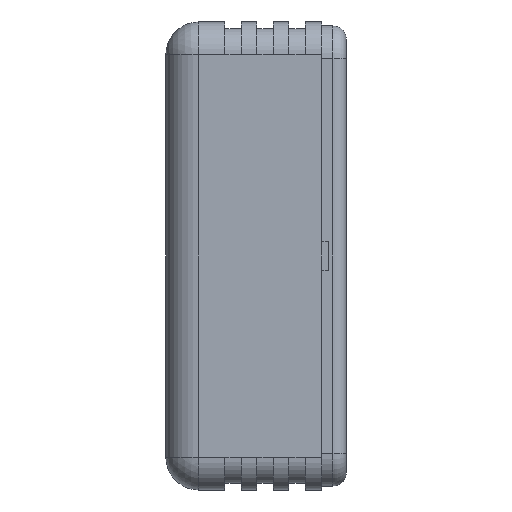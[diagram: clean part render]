
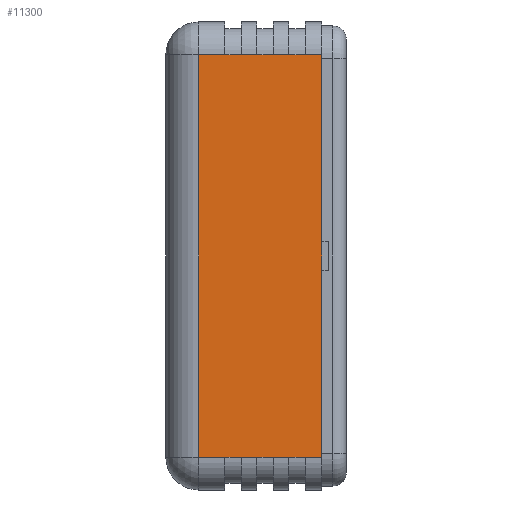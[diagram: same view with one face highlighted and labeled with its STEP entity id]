
A CAD part, left-side view. The second image highlights one B-rep face of the part: STEP entity #11300.
In plain terms, the highlighted planar face has unit normal (-1, 0, 0).
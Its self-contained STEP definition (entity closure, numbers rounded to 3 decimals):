
#18 = VERTEX_POINT ( 'NONE', #9978 ) ;
#83 = CARTESIAN_POINT ( 'NONE',  ( -50.45, 23.65, 30.5 ) ) ;
#113 = DIRECTION ( 'NONE',  ( 0., 0., 1. ) ) ;
#139 = VECTOR ( 'NONE', #6053, 1000. ) ;
#287 = LINE ( 'NONE', #4310, #9631 ) ;
#379 = EDGE_CURVE ( 'NONE', #11097, #8550, #6216, .T. ) ;
#414 = DIRECTION ( 'NONE',  ( 0., 1., 0. ) ) ;
#446 = VERTEX_POINT ( 'NONE', #1068 ) ;
#646 = CARTESIAN_POINT ( 'NONE',  ( -50.45, 23.65, -30.5 ) ) ;
#707 = VERTEX_POINT ( 'NONE', #6973 ) ;
#954 = EDGE_CURVE ( 'NONE', #11097, #1762, #8951, .T. ) ;
#986 = LINE ( 'NONE', #646, #3116 ) ;
#1018 = CARTESIAN_POINT ( 'NONE',  ( -50.45, 23.65, 30.5 ) ) ;
#1068 = CARTESIAN_POINT ( 'NONE',  ( -50.45, 5., -30.5 ) ) ;
#1094 = VECTOR ( 'NONE', #4354, 1000. ) ;
#1097 = ORIENTED_EDGE ( 'NONE', *, *, #6325, .F. ) ;
#1114 = CARTESIAN_POINT ( 'NONE',  ( -50.45, 23.65, -30.5 ) ) ;
#1179 = EDGE_CURVE ( 'NONE', #18, #8550, #2177, .T. ) ;
#1201 = CARTESIAN_POINT ( 'NONE',  ( -50.45, 21.15, 30.5 ) ) ;
#1205 = VECTOR ( 'NONE', #10738, 1000. ) ;
#1337 = CARTESIAN_POINT ( 'NONE',  ( -50.45, 8.95, 30.5 ) ) ;
#1354 = ORIENTED_EDGE ( 'NONE', *, *, #8096, .F. ) ;
#1356 = VERTEX_POINT ( 'NONE', #5769 ) ;
#1412 = CARTESIAN_POINT ( 'NONE',  ( -50.45, 16.3, 30.5 ) ) ;
#1465 = VECTOR ( 'NONE', #6773, 1000. ) ;
#1527 = PLANE ( 'NONE',  #8997 ) ;
#1697 = CARTESIAN_POINT ( 'NONE',  ( -50.45, 13.8, -30.5 ) ) ;
#1762 = VERTEX_POINT ( 'NONE', #7014 ) ;
#1820 = CARTESIAN_POINT ( 'NONE',  ( -50.45, 23.65, 30.5 ) ) ;
#1869 = DIRECTION ( 'NONE',  ( 0., -1., 0. ) ) ;
#1959 = DIRECTION ( 'NONE',  ( 0., 1., 0. ) ) ;
#2177 = LINE ( 'NONE', #5173, #9094 ) ;
#2414 = VECTOR ( 'NONE', #2472, 1000. ) ;
#2420 = DIRECTION ( 'NONE',  ( 0., -1., 0. ) ) ;
#2430 = DIRECTION ( 'NONE',  ( 0., 0., -1. ) ) ;
#2472 = DIRECTION ( 'NONE',  ( 0., -1., 0. ) ) ;
#2532 = LINE ( 'NONE', #11502, #139 ) ;
#2844 = CARTESIAN_POINT ( 'NONE',  ( -50.45, 5., 30.5 ) ) ;
#2933 = DIRECTION ( 'NONE',  ( 0., 0., 1. ) ) ;
#3008 = CARTESIAN_POINT ( 'NONE',  ( -50.45, 18.65, -30.5 ) ) ;
#3040 = VECTOR ( 'NONE', #113, 1000. ) ;
#3096 = EDGE_CURVE ( 'NONE', #10094, #5263, #287, .T. ) ;
#3106 = EDGE_CURVE ( 'NONE', #1356, #10306, #4842, .T. ) ;
#3116 = VECTOR ( 'NONE', #1869, 1000. ) ;
#3127 = VERTEX_POINT ( 'NONE', #7643 ) ;
#3316 = LINE ( 'NONE', #2844, #3040 ) ;
#3426 = ORIENTED_EDGE ( 'NONE', *, *, #3106, .F. ) ;
#3669 = LINE ( 'NONE', #1114, #10319 ) ;
#3781 = EDGE_CURVE ( 'NONE', #446, #10306, #3316, .T. ) ;
#3897 = VERTEX_POINT ( 'NONE', #1201 ) ;
#3991 = ORIENTED_EDGE ( 'NONE', *, *, #9452, .F. ) ;
#4083 = VECTOR ( 'NONE', #8203, 1000. ) ;
#4310 = CARTESIAN_POINT ( 'NONE',  ( -50.45, 23.65, -30.5 ) ) ;
#4354 = DIRECTION ( 'NONE',  ( 0., -1., 0. ) ) ;
#4485 = ORIENTED_EDGE ( 'NONE', *, *, #1179, .F. ) ;
#4624 = ORIENTED_EDGE ( 'NONE', *, *, #5553, .T. ) ;
#4842 = LINE ( 'NONE', #1018, #2414 ) ;
#4871 = CARTESIAN_POINT ( 'NONE',  ( -50.45, 13.8, -30.5 ) ) ;
#4899 = FACE_OUTER_BOUND ( 'NONE', #5888, .T. ) ;
#5087 = ORIENTED_EDGE ( 'NONE', *, *, #379, .T. ) ;
#5125 = CARTESIAN_POINT ( 'NONE',  ( -50.45, 23.65, -30.5 ) ) ;
#5173 = CARTESIAN_POINT ( 'NONE',  ( -50.45, 8.95, -30.5 ) ) ;
#5177 = ORIENTED_EDGE ( 'NONE', *, *, #7598, .T. ) ;
#5202 = ORIENTED_EDGE ( 'NONE', *, *, #954, .F. ) ;
#5219 = VECTOR ( 'NONE', #1959, 1000. ) ;
#5263 = VERTEX_POINT ( 'NONE', #6688 ) ;
#5352 = CARTESIAN_POINT ( 'NONE',  ( -50.45, 23.65, 30.5 ) ) ;
#5553 = EDGE_CURVE ( 'NONE', #9062, #1762, #986, .T. ) ;
#5743 = VECTOR ( 'NONE', #414, 1000. ) ;
#5769 = CARTESIAN_POINT ( 'NONE',  ( -50.45, 8.95, 30.5 ) ) ;
#5888 = EDGE_LOOP ( 'NONE', ( #8408, #3991, #4624, #5202, #5087, #4485, #7669, #8544, #3426, #10025, #6302, #11498, #1097, #5177, #1354, #8000 ) ) ;
#6053 = DIRECTION ( 'NONE',  ( 0., 1., 0. ) ) ;
#6162 = CARTESIAN_POINT ( 'NONE',  ( -50.45, 11.45, -30.5 ) ) ;
#6184 = VECTOR ( 'NONE', #9326, 1000. ) ;
#6216 = LINE ( 'NONE', #5125, #1094 ) ;
#6302 = ORIENTED_EDGE ( 'NONE', *, *, #10397, .F. ) ;
#6325 = EDGE_CURVE ( 'NONE', #707, #8364, #7774, .T. ) ;
#6497 = LINE ( 'NONE', #83, #4083 ) ;
#6688 = CARTESIAN_POINT ( 'NONE',  ( -50.45, 23.65, 30.5 ) ) ;
#6747 = CARTESIAN_POINT ( 'NONE',  ( -50.45, 23.65, -30.5 ) ) ;
#6773 = DIRECTION ( 'NONE',  ( 0., 1., 0. ) ) ;
#6973 = CARTESIAN_POINT ( 'NONE',  ( -50.45, 18.65, 30.5 ) ) ;
#7007 = EDGE_CURVE ( 'NONE', #10094, #9802, #9342, .T. ) ;
#7014 = CARTESIAN_POINT ( 'NONE',  ( -50.45, 16.3, -30.5 ) ) ;
#7598 = EDGE_CURVE ( 'NONE', #707, #3897, #2532, .T. ) ;
#7643 = CARTESIAN_POINT ( 'NONE',  ( -50.45, 11.45, 30.5 ) ) ;
#7669 = ORIENTED_EDGE ( 'NONE', *, *, #7959, .T. ) ;
#7774 = LINE ( 'NONE', #1820, #9617 ) ;
#7843 = DIRECTION ( 'NONE',  ( 1., 0., 0. ) ) ;
#7959 = EDGE_CURVE ( 'NONE', #18, #446, #3669, .T. ) ;
#8000 = ORIENTED_EDGE ( 'NONE', *, *, #3096, .F. ) ;
#8031 = CARTESIAN_POINT ( 'NONE',  ( -50.45, 21.15, -30.5 ) ) ;
#8096 = EDGE_CURVE ( 'NONE', #5263, #3897, #6497, .T. ) ;
#8117 = LINE ( 'NONE', #1337, #5743 ) ;
#8181 = CARTESIAN_POINT ( 'NONE',  ( -50.45, 13.8, 30.5 ) ) ;
#8203 = DIRECTION ( 'NONE',  ( 0., -1., 0. ) ) ;
#8285 = LINE ( 'NONE', #3008, #6184 ) ;
#8364 = VERTEX_POINT ( 'NONE', #1412 ) ;
#8408 = ORIENTED_EDGE ( 'NONE', *, *, #7007, .T. ) ;
#8544 = ORIENTED_EDGE ( 'NONE', *, *, #3781, .T. ) ;
#8550 = VERTEX_POINT ( 'NONE', #6162 ) ;
#8702 = CARTESIAN_POINT ( 'NONE',  ( -50.45, 23.65, -30.5 ) ) ;
#8728 = CARTESIAN_POINT ( 'NONE',  ( -50.45, 23.65, -30.5 ) ) ;
#8733 = DIRECTION ( 'NONE',  ( 0., -1., 0. ) ) ;
#8770 = VECTOR ( 'NONE', #2420, 1000. ) ;
#8951 = LINE ( 'NONE', #1697, #1465 ) ;
#8997 = AXIS2_PLACEMENT_3D ( 'NONE', #8702, #7843, #2430 ) ;
#9062 = VERTEX_POINT ( 'NONE', #9706 ) ;
#9094 = VECTOR ( 'NONE', #9714, 1000. ) ;
#9311 = DIRECTION ( 'NONE',  ( 0., -1., 0. ) ) ;
#9326 = DIRECTION ( 'NONE',  ( 0., 1., 0. ) ) ;
#9341 = EDGE_CURVE ( 'NONE', #10531, #8364, #9718, .T. ) ;
#9342 = LINE ( 'NONE', #8728, #8770 ) ;
#9452 = EDGE_CURVE ( 'NONE', #9062, #9802, #8285, .T. ) ;
#9617 = VECTOR ( 'NONE', #8733, 1000. ) ;
#9631 = VECTOR ( 'NONE', #2933, 1000. ) ;
#9706 = CARTESIAN_POINT ( 'NONE',  ( -50.45, 18.65, -30.5 ) ) ;
#9714 = DIRECTION ( 'NONE',  ( 0., 1., 0. ) ) ;
#9718 = LINE ( 'NONE', #10987, #5219 ) ;
#9802 = VERTEX_POINT ( 'NONE', #8031 ) ;
#9978 = CARTESIAN_POINT ( 'NONE',  ( -50.45, 8.95, -30.5 ) ) ;
#10025 = ORIENTED_EDGE ( 'NONE', *, *, #10077, .T. ) ;
#10077 = EDGE_CURVE ( 'NONE', #1356, #3127, #8117, .T. ) ;
#10094 = VERTEX_POINT ( 'NONE', #6747 ) ;
#10306 = VERTEX_POINT ( 'NONE', #11574 ) ;
#10319 = VECTOR ( 'NONE', #9311, 1000. ) ;
#10397 = EDGE_CURVE ( 'NONE', #10531, #3127, #10856, .T. ) ;
#10531 = VERTEX_POINT ( 'NONE', #8181 ) ;
#10738 = DIRECTION ( 'NONE',  ( 0., -1., 0. ) ) ;
#10856 = LINE ( 'NONE', #5352, #1205 ) ;
#10987 = CARTESIAN_POINT ( 'NONE',  ( -50.45, 13.8, 30.5 ) ) ;
#11097 = VERTEX_POINT ( 'NONE', #4871 ) ;
#11300 = ADVANCED_FACE ( 'NONE', ( #4899 ), #1527, .F. ) ;
#11498 = ORIENTED_EDGE ( 'NONE', *, *, #9341, .T. ) ;
#11502 = CARTESIAN_POINT ( 'NONE',  ( -50.45, 18.65, 30.5 ) ) ;
#11574 = CARTESIAN_POINT ( 'NONE',  ( -50.45, 5., 30.5 ) ) ;
